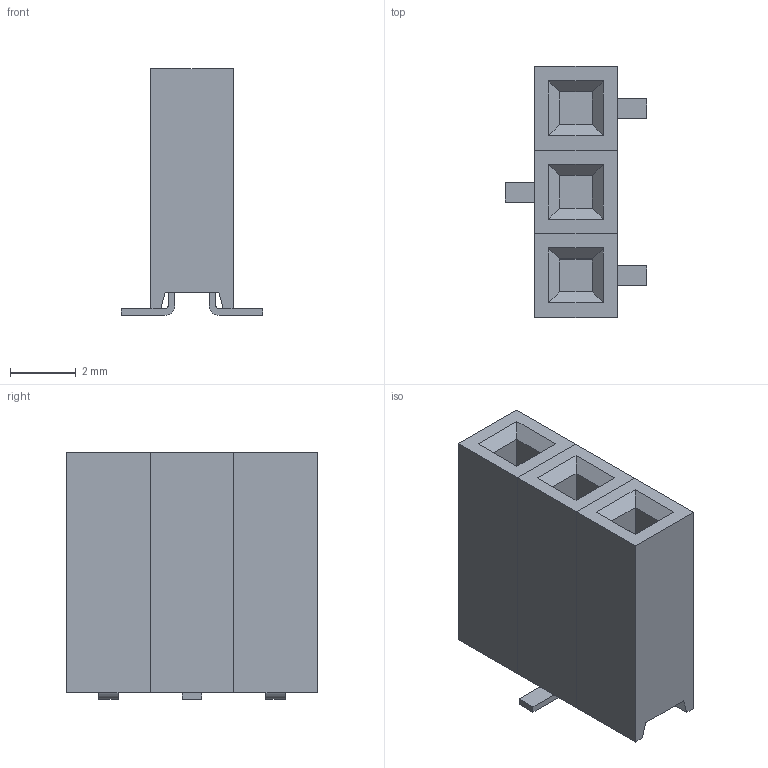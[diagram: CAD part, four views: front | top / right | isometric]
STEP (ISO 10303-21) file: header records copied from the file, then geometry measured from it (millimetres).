
FILE_DESCRIPTION(('FreeCAD Model'),'2;1');
FILE_NAME('Open CASCADE Shape Model','2025-02-24T21:25:24',( 'Krisjanis Rijnieks'),(''),'Open CASCADE STEP processor 7.7', 'FreeCAD','Unknown');
FILE_SCHEMA(('AUTOMOTIVE_DESIGN { 1 0 10303 214 1 1 1 1 }'));
Length unit declared in the file: millimetre
Products named in the file (10): 01x03_P2.54mm_Vertical_SMD; 01x01_P2.54mm_Vertical_SMD003; Body003; Lead003; 01x01_P2.54mm_Vertical_SMD004; Body004; Lead004; 01x01_P2.54mm_Vertical_SMD005; Body005; Lead005
Assembly tree (9 placements, depth 3):
  01x03_P2.54mm_Vertical_SMD
    01x01_P2.54mm_Vertical_SMD003
      Body003
      Lead003
    01x01_P2.54mm_Vertical_SMD004
      Body004
      Lead004
    01x01_P2.54mm_Vertical_SMD005
      Body005
      Lead005
Bounding box: 4.3 x 7.62 x 7.5 mm (x, y, z)
Volume: 121.3 mm3; surface area: 317.6 mm2
Topology: 6 solids, 6 shells, 87 faces, 204 edges, 132 vertices
Faces by surface type: plane 81, cylinder 6
Entity records: 2659 total; most frequent: CARTESIAN_POINT 433, DIRECTION 410, ORIENTED_EDGE 408, EDGE_CURVE 204, LINE 192, VECTOR 192, VERTEX_POINT 132, AXIS2_PLACEMENT_3D 109
